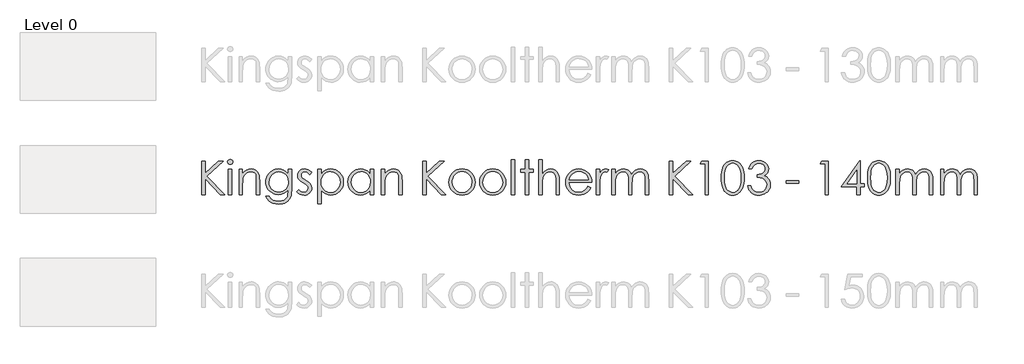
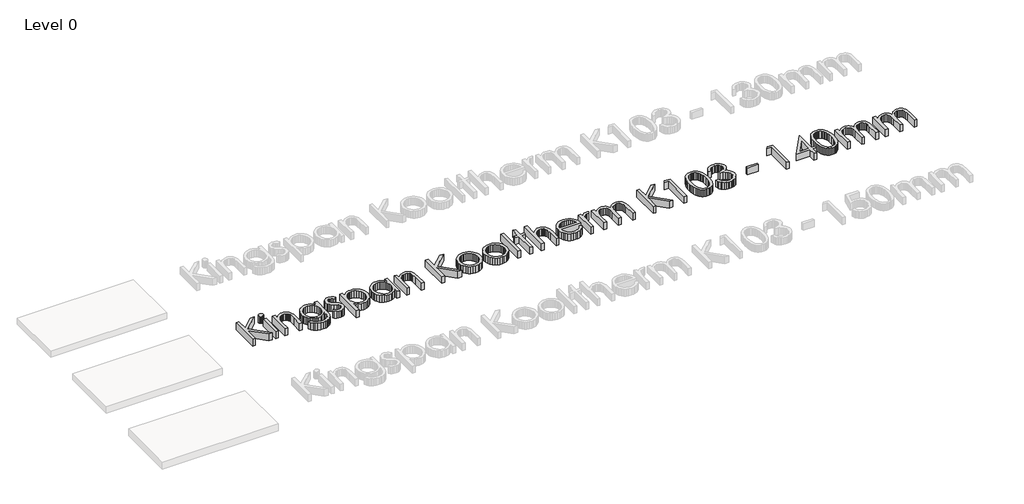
# One storey, part 2 of 13: 1 proxy.
"""IFC4 building model written with IfcOpenShell, lengths in millimetres."""

import ifcopenshell
import ifcopenshell.guid

model = None  # the IFC model being written
_history = None  # IfcOwnerHistory: only IFC2X3 demands one
_inside = {}  # id of a spatial element -> (the spatial element, [elements in it])
_under = {}  # id of a project, library or spatial element -> (it, [spatial elements below it])
_declared = {}  # id of a project -> (the project, [libraries it declares])
_typed = {}  # id of a type object -> (the type object, [elements of that type])
_made_of = {}  # id of a material, layer set ... -> (it, [elements and type objects made of it])


def new_model(schema):
    """Start an empty IFC model of exactly this schema.

    Asked for "IFC4X3", IfcOpenShell would pick the latest addendum, in which some entities
    have other attributes; the version numbers below select the first issue.
    IFC2X3 requires an IfcOwnerHistory on every rooted entity: one is made here for all.
    """
    global model, _history
    if schema == "IFC4X3":
        model = ifcopenshell.file(schema_version=(4, 3, 0, 0))
    else:
        model = ifcopenshell.file(schema=schema)
    _inside.clear()
    _under.clear()
    _declared.clear()
    _typed.clear()
    _made_of.clear()
    _history = None
    if model.schema == "IFC2X3":
        org = make("IfcOrganization", Name="unknown")
        user = make(
            "IfcPersonAndOrganization",
            ThePerson=make("IfcPerson", FamilyName="unknown"),
            TheOrganization=org,
        )
        app = make(
            "IfcApplication",
            ApplicationDeveloper=org,
            Version="unknown",
            ApplicationFullName="unknown",
            ApplicationIdentifier="unknown",
        )
        _history = make(
            "IfcOwnerHistory",
            OwningUser=user,
            OwningApplication=app,
            ChangeAction="ADDED",
            CreationDate=0,
        )
    return model


def make(cls, **values):
    """One entity of the class cls with the attributes given. An attribute that is None is left unset."""
    return model.create_entity(
        cls, **{name: value for name, value in values.items() if value is not None}
    )


def rooted(cls, **values):
    """An entity with a GlobalId (a new one), such as an element, a storey or a relation."""
    return make(cls, GlobalId=ifcopenshell.guid.new(), OwnerHistory=_history, **values)


def si_unit(unit_type, name, prefix=None):
    """IfcSIUnit, for example si_unit("LENGTHUNIT", "METRE", prefix="MILLI")."""
    return make("IfcSIUnit", UnitType=unit_type, Prefix=prefix, Name=name)


def assignment(units):
    """IfcUnitAssignment: the units of a project."""
    return None if units is None else make("IfcUnitAssignment", Units=units)


def point(xyz):
    """IfcCartesianPoint."""
    return None if xyz is None else make("IfcCartesianPoint", Coordinates=xyz)


def direction(xyz):
    """IfcDirection."""
    return None if xyz is None else make("IfcDirection", DirectionRatios=xyz)


def frame(location, z_axis=None, x_axis=None):
    """IfcAxis2Placement3D, a coordinate frame: its origin and axes. An axis left out is left unset."""
    return make(
        "IfcAxis2Placement3D",
        Location=point(location),
        Axis=direction(z_axis),
        RefDirection=direction(x_axis),
    )


def origin():
    """The frame at (0, 0, 0) with its axes left unset."""
    return frame((0.0, 0.0, 0.0))


def origin_with_axes():
    """The frame at (0, 0, 0) with the z axis (0, 0, 1) and the x axis (1, 0, 0) written out."""
    return frame((0.0, 0.0, 0.0), z_axis=(0.0, 0.0, 1.0), x_axis=(1.0, 0.0, 0.0))


def place(relative_to, where):
    """IfcLocalPlacement: puts the frame where relative to a parent placement (None: the world)."""
    return make(
        "IfcLocalPlacement", PlacementRelTo=relative_to, RelativePlacement=where
    )


def context(
    kind, dimensions, precision=None, world=None, true_north=None, identifier=None
):
    """IfcGeometricRepresentationContext, for example the 3D "Model" context."""
    return make(
        "IfcGeometricRepresentationContext",
        ContextIdentifier=identifier,
        ContextType=kind,
        CoordinateSpaceDimension=dimensions,
        Precision=precision,
        WorldCoordinateSystem=world,
        TrueNorth=true_north,
    )


def project(units=None, contexts=None):
    """IfcProject with its units and contexts."""
    return rooted(
        "IfcProject",
        Name="project",
        RepresentationContexts=contexts,
        UnitsInContext=assignment(units),
    )


def spatial(cls, under=None, at=None, **own):
    """A site, building, storey or space (cls), placed at a placement, below another one or the project."""
    s = rooted(cls, ObjectPlacement=at, **own)
    if under is not None:
        _under.setdefault(under.id(), (under, []))[1].append(s)
    return s


def polyline(points):
    """IfcPolyline through the points."""
    return make("IfcPolyline", Points=[point(p) for p in points])


def outline(outer, holes=None, kind="AREA"):
    """IfcArbitraryClosedProfileDef: a profile drawn as a closed curve; with holes, ...WithVoids."""
    if holes is None:
        return make("IfcArbitraryClosedProfileDef", ProfileType=kind, OuterCurve=outer)
    return make(
        "IfcArbitraryProfileDefWithVoids",
        ProfileType=kind,
        OuterCurve=outer,
        InnerCurves=holes,
    )


def extrude(swept, where, along, depth):
    """IfcExtrudedAreaSolid: the profile swept, set in the frame where, extruded along a direction by depth."""
    return make(
        "IfcExtrudedAreaSolid",
        SweptArea=swept,
        Position=where,
        ExtrudedDirection=direction(along),
        Depth=depth,
    )


def shape(context_of_items, identifier, shape_type, items):
    """IfcShapeRepresentation: the items that make up one representation, for example the "Body"."""
    return make(
        "IfcShapeRepresentation",
        ContextOfItems=context_of_items,
        RepresentationIdentifier=identifier,
        RepresentationType=shape_type,
        Items=items,
    )


def made_of(thing, what):
    """Note that an element or type object is made of a material, layer set ...; save() writes the relation."""
    if what is not None:
        _made_of.setdefault(what.id(), (what, []))[1].append(thing)
    return thing


def element(
    cls,
    number,
    at=None,
    inside=None,
    cuts=None,
    type_object=None,
    material=None,
    context=None,
    identifier="Body",
    shape_type=None,
    held_by="IfcProductDefinitionShape",
    body=None,
    shapes=None,
    **own,
):
    """One element of the class cls, such as IfcWall. Its Tag is "e" and its number.

    at: its placement. inside: the storey or other place that contains it. cuts: it is an
    opening in that element (IfcRelVoidsElement). A single representation is given by context,
    identifier, shape_type and body (its items); several are given by shapes. held_by: the class
    of the entity that holds the representations. save() writes the other relations.
    """
    e = rooted(cls, Tag="e%d" % number, ObjectPlacement=at, **own)
    if body is not None:
        shapes = [shape(context, identifier, shape_type, body)]
    if shapes is not None:
        e.Representation = make(held_by, Representations=shapes)
    if inside is not None:
        _inside.setdefault(inside.id(), (inside, []))[1].append(e)
    if cuts is not None:
        rooted(
            "IfcRelVoidsElement", RelatingBuildingElement=cuts, RelatedOpeningElement=e
        )
    if type_object is not None:
        _typed.setdefault(type_object.id(), (type_object, []))[1].append(e)
    return made_of(e, material)


def aggregate(whole, parts):
    """IfcRelAggregates: a whole, such as a stair, and the parts it consists of."""
    return rooted("IfcRelAggregates", RelatingObject=whole, RelatedObjects=parts)


def save(model, path):
    """Write the relations noted so far, then the file.

    IfcRelAggregates (storeys below a building ...), IfcRelContainedInSpatialStructure (elements
    in a storey), IfcRelDefinesByType, IfcRelAssociatesMaterial and IfcRelDeclares: one each for
    every whole, place, type object, material and project.
    """
    for whole, parts in _under.values():
        aggregate(whole, parts)
    for where, things in _inside.values():
        rooted(
            "IfcRelContainedInSpatialStructure",
            RelatedElements=things,
            RelatingStructure=where,
        )
    for kind, things in _typed.values():
        rooted("IfcRelDefinesByType", RelatedObjects=things, RelatingType=kind)
    for what, things in _made_of.values():
        rooted("IfcRelAssociatesMaterial", RelatedObjects=things, RelatingMaterial=what)
    for by, libraries in _declared.values():
        rooted("IfcRelDeclares", RelatingContext=by, RelatedDefinitions=libraries)
    model.write(path)


model = new_model("IFC4")

# Units and contexts
model_context = context("Model", 3, world=origin())
ifc_project = project(units=[si_unit("LENGTHUNIT", "METRE", prefix="MILLI")], contexts=[model_context])

# Site, building, storey
site = spatial("IfcSite", under=ifc_project)
building = spatial("IfcBuilding", under=site)
storey = spatial("IfcBuildingStorey", under=building, Name="Level 0", Elevation=0.0)

# Proxy
placement = place(None, origin())
element("IfcBuildingElementProxy", 1, Name="600mm KI_CenturyGothic", ObjectType="600mm KI_CenturyGothic", at=placement, inside=storey, context=model_context, shape_type="SweptSolid", body=[
    extrude(outline(polyline([(-3852.2663848, -16099.1034017), (-3792.944575, -16099.1034017), (-3792.944575, -16318.316027), (-3555.1938841, -16099.1034017), (-3471.6181051, -16099.1034017), (-3760.9664119, -16366.0515459), (-3441.9572002, -16692.3214999), (-3520.8984627, -16692.3214999), (-3792.944575, -16414.0960325), (-3792.944575, -16692.3214999), (-3852.2663848, -16692.3214999), (-3852.2663848, -16099.1034017)])), origin_with_axes(), (0.0, 0.0, 1.0), 150.0),
    extrude(outline(polyline([(-3348.1854852, -16069.4424967), (-3329.145347, -16072.7252792), (-3313.1176445, -16082.5736265), (-3302.226531, -16097.0178693), (-3298.5961598, -16114.088338), (-3302.226531, -16130.9270809), (-3313.1176445, -16145.2940817), (-3329.145347, -16155.142429), (-3348.1854852, -16158.4252115), (-3366.9938975, -16155.142429), (-3382.9443581, -16145.2940817), (-3393.8354717, -16130.9270809), (-3397.4658428, -16114.088338), (-3393.8354717, -16097.0178693), (-3382.9443581, -16082.5736265), (-3366.9938975, -16072.7252792), (-3348.1854852, -16069.4424967)])), origin_with_axes(), (0.0, 0.0, 1.0), 150.0),
    extrude(outline(polyline([(-3377.6919062, -16247.4079262), (-3318.3700964, -16247.4079262), (-3318.3700964, -16692.3214999), (-3377.6919062, -16692.3214999), (-3377.6919062, -16247.4079262)])), origin_with_axes(), (0.0, 0.0, 1.0), 150.0),
    extrude(outline(polyline([(-3189.8395084, -16247.4079262), (-3130.5176986, -16247.4079262), (-3130.5176986, -16326.5036726), (-3096.9946967, -16286.9944204), (-3060.0730495, -16259.303185), (-3019.7141359, -16242.9665147), (-2975.879335, -16237.5209579), (-2953.4357238, -16239.0995901), (-2932.2955704, -16243.8354865), (-2912.4588747, -16251.7286472), (-2893.9256368, -16262.7790723), (-2877.212412, -16276.5039994), (-2862.835756, -16292.4206667), (-2841.0921499, -16330.8292213), (-2833.6238199, -16355.2087086), (-2828.2892984, -16385.5551357), (-2824.0216812, -16464.1488095), (-2824.0216812, -16692.3214999), (-2883.343491, -16692.3214999), (-2883.343491, -16479.1337458), (-2883.343491, -16376.092998), (-2884.7290183, -16355.2956057), (-2889.8125035, -16337.2403023), (-2898.2849788, -16321.9270877), (-2910.1464442, -16309.355962), (-2924.7403432, -16299.5558909), (-2941.4101193, -16292.5558401), (-2980.977303, -16286.9557994), (-3005.3471351, -16289.1137461), (-3028.4038541, -16295.5875862), (-3050.1474602, -16306.3773197), (-3070.5779533, -16321.4829466), (-3088.6622225, -16339.7651482), (-3103.3671568, -16360.084606), (-3114.6927562, -16382.44132), (-3122.6390208, -16406.8352901), (-3128.5480292, -16453.9142525), (-3130.5176986, -16528.4141035), (-3130.5176986, -16692.3214999), (-3189.8395084, -16692.3214999), (-3189.8395084, -16247.4079262)])), origin_with_axes(), (0.0, 0.0, 1.0), 150.0),
    extrude(outline(polyline([(-2319.7862977, -16247.4079262), (-2260.4644879, -16247.4079262), (-2260.4644879, -16598.395301), (-2264.5196897, -16678.6496765), (-2269.588692, -16709.4499001), (-2276.6852953, -16734.0321474), (-2289.9371156, -16762.6454585), (-2307.2924139, -16787.7732271), (-2328.7511904, -16809.4154531), (-2354.3134448, -16827.5721366), (-2383.3226209, -16841.9343098), (-2415.122162, -16852.1930049), (-2449.7120682, -16858.348222), (-2487.0923395, -16860.3999611), (-2541.0458345, -16856.3833802), (-2589.206184, -16844.3336376), (-2630.260275, -16825.5059147), (-2662.8949946, -16801.1553932), (-2690.2000204, -16767.8061856), (-2715.2650299, -16721.9824048), (-2655.94322, -16721.9824048), (-2642.4355358, -16743.151524), (-2627.0933555, -16761.3951046), (-2609.9166791, -16776.7131468), (-2590.9055067, -16789.1056506), (-2569.7894914, -16798.6691682), (-2546.2982864, -16805.5002523), (-2492.1903075, -16810.9651195), (-2438.5071593, -16805.6354257), (-2415.083541, -16798.9733084), (-2393.93856, -16789.6463441), (-2359.6624492, -16765.6047903), (-2336.8567664, -16736.1176798), (-2329.3884364, -16717.4782342), (-2324.0539149, -16693.7697863), (-2319.7862977, -16631.1458835), (-2319.7862977, -16608.4367532), (-2354.757586, -16644.2190818), (-2396.6420279, -16670.6165148), (-2443.392712, -16686.8952536), (-2492.9627269, -16692.3214999), (-2522.4063889, -16690.4242447), (-2550.9521133, -16684.7324793), (-2578.5999001, -16675.2462036), (-2605.3497494, -16661.9654175), (-2630.1540674, -16645.4742634), (-2651.9652601, -16626.3568832), (-2670.7833277, -16604.6132772), (-2686.6082702, -16580.2434451), (-2699.1456025, -16553.9280817), (-2708.1008399, -16526.3478816), (-2713.4739824, -16497.5028447), (-2715.2650299, -16467.392971), (-2713.3967404, -16437.1044753), (-2707.7918722, -16407.8780563), (-2698.4504251, -16379.713714), (-2685.3723991, -16352.6114483), (-2668.9971079, -16327.4257483), (-2649.7638648, -16305.0111029), (-2627.67267, -16285.367512), (-2602.7235235, -16268.4949758), (-2575.9833294, -16254.943843), (-2548.5189922, -16245.2644624), (-2520.3305117, -16239.456834), (-2491.4178881, -16237.5209579), (-2444.5320306, -16242.4644421), (-2400.8903346, -16257.2948945), (-2359.6045177, -16283.8661218), (-2319.7862977, -16324.0319306), (-2319.7862977, -16247.4079262)]), holes=[polyline([(-2484.1571458, -16286.9557994), (-2529.0154023, -16292.9806707), (-2570.5908765, -16311.0552847), (-2606.2187212, -16339.7699758), (-2633.2340897, -16377.7150788), (-2650.2659375, -16421.9940208), (-2655.94322, -16469.7102292), (-2653.0080263, -16505.6229036), (-2644.2024452, -16538.2817613), (-2629.5264766, -16567.6868023), (-2608.9801206, -16593.8380266), (-2583.7606272, -16615.296803), (-2555.0652466, -16630.6245004), (-2522.8939786, -16639.8211189), (-2487.2468234, -16642.8866584), (-2451.3244937, -16639.845257), (-2419.1001219, -16630.7210528), (-2390.573708, -16615.5140459), (-2365.7452519, -16594.2242363), (-2345.6382095, -16567.9812872), (-2331.2760363, -16537.9148621), (-2322.6587323, -16504.024961), (-2319.7862977, -16466.3115838), (-2325.0773706, -16417.6105407), (-2340.9505892, -16374.3936754), (-2366.4983608, -16338.1672056), (-2400.8130926, -16310.4373492), (-2440.9982119, -16292.8261869), (-2484.1571458, -16286.9557994)])]), origin_with_axes(), (0.0, 0.0, 1.0), 150.0),
    extrude(outline(polyline([(-1904.5336289, -16298.6965743), (-1940.9918246, -16336.390641), (-1962.9575012, -16314.7628978), (-1984.6721416, -16299.3145098), (-2006.1357456, -16290.045477), (-2027.3483133, -16286.9557994), (-2052.181597, -16291.6289368), (-2073.2300256, -16305.6483489), (-2087.5970264, -16325.8857371), (-2092.3860267, -16349.212803), (-2088.4466878, -16370.7633042), (-2076.628671, -16391.2324183), (-2052.0657341, -16413.400855), (-2010.2006027, -16439.122421), (-1958.3326401, -16471.9888664), (-1939.8428507, -16487.8138088), (-1926.315856, -16503.2332311), (-1909.9791857, -16535.9065716), (-1904.5336289, -16572.4420092), (-1906.9474396, -16598.5884059), (-1914.1888714, -16622.6492701), (-1926.2579245, -16644.624602), (-1943.1545989, -16664.5144015), (-1963.6719892, -16681.0055557), (-1986.6031901, -16692.7849515), (-2011.9482016, -16699.852589), (-2039.7070237, -16702.2084682), (-2077.4397114, -16698.3270607), (-2113.3958344, -16686.6828383), (-2145.4512394, -16668.2027042), (-2171.4817731, -16643.8135617), (-2135.7959969, -16603.3387852), (-2114.0041146, -16624.9665283), (-2091.5749863, -16640.4149163), (-2068.5086121, -16649.6839491), (-2044.8049918, -16652.7736267), (-2013.637869, -16647.1349651), (-1987.4914724, -16630.2189802), (-1969.7644472, -16605.6560434), (-1963.8554388, -16577.0765256), (-1967.7561567, -16553.2860081), (-1979.4583106, -16532.2762005), (-2005.0253927, -16510.5712154), (-2050.2119275, -16483.7682622), (-2099.762632, -16453.1032121), (-2117.441381, -16437.9444814), (-2130.3890611, -16422.9016136), (-2146.3781427, -16390.7689666), (-2151.7078365, -16354.310771), (-2149.5305794, -16330.2643896), (-2142.9988078, -16308.3325063), (-2132.1125219, -16288.5151211), (-2116.8717217, -16270.812234), (-2098.309518, -16256.2473007), (-2077.4590218, -16245.8437769), (-2054.3202332, -16239.6016627), (-2028.8931521, -16237.5209579), (-1997.9481, -16241.3444339), (-1966.9064954, -16252.814862), (-1935.7683384, -16271.9322421), (-1904.5336289, -16298.6965743)])), origin_with_axes(), (0.0, 0.0, 1.0), 150.0),
    extrude(outline(polyline([(-1795.7769776, -16247.4079262), (-1736.4551678, -16247.4079262), (-1736.4551678, -16328.5119631), (-1700.9238754, -16288.2689124), (-1660.4490989, -16259.9211205), (-1614.9922173, -16243.1209986), (-1564.5146096, -16237.5209579), (-1520.0618732, -16241.7596094), (-1478.9305402, -16254.4755637), (-1441.1206107, -16275.668821), (-1406.6320845, -16305.3393811), (-1377.9077381, -16340.9768811), (-1357.3903478, -16380.070958), (-1345.0799137, -16422.6216116), (-1340.9764356, -16468.628842), (-1345.0412927, -16515.5291824), (-1357.235864, -16558.7508754), (-1377.5601494, -16598.293921), (-1406.014149, -16634.1583192), (-1440.2130179, -16663.9302594), (-1477.7719111, -16685.1959309), (-1518.6908288, -16697.9553339), (-1562.9697708, -16702.2084682), (-1612.6170277, -16696.743601), (-1658.0545988, -16680.3489992), (-1699.3211052, -16653.1019049), (-1736.4551678, -16615.07956), (-1736.4551678, -16850.5129928), (-1795.7769776, -16850.5129928), (-1795.7769776, -16247.4079262)]), holes=[polyline([(-1568.5311905, -16286.9557994), (-1602.5852307, -16290.2530647), (-1633.8392507, -16300.1448607), (-1662.2932503, -16316.6311872), (-1687.9472295, -16339.7120444), (-1709.1694525, -16367.6977647), (-1724.3281832, -16398.8986808), (-1733.4234216, -16433.3147926), (-1736.4551678, -16470.9461002), (-1731.048232, -16519.8016272), (-1714.8274246, -16563.4819442), (-1688.5265441, -16600.3263495), (-1652.8793888, -16628.6741414), (-1611.4390881, -16646.7487554), (-1567.7587711, -16652.7736267), (-1525.0632888, -16646.7101344), (-1485.0326535, -16628.5196576), (-1450.2544701, -16599.4187567), (-1423.3163435, -16560.6239924), (-1406.05277, -16515.9588407), (-1400.2982454, -16469.2467775), (-1405.9948385, -16422.3029886), (-1423.0846177, -16377.8695627), (-1449.8103289, -16339.5189395), (-1484.414718, -16310.8235589), (-1524.7157001, -16292.9227393), (-1568.5311905, -16286.9557994)])]), origin_with_axes(), (0.0, 0.0, 1.0), 150.0),
    extrude(outline(polyline([(-807.0801472, -16247.4079262), (-807.0801472, -16692.3214999), (-866.401957, -16692.3214999), (-866.401957, -16616.4699149), (-903.4780882, -16654.3184655), (-944.8797679, -16681.0441767), (-990.4525125, -16696.9173953), (-1040.0418379, -16702.2084682), (-1084.3159523, -16697.9553339), (-1125.2203871, -16685.1959309), (-1162.7551422, -16663.9302594), (-1196.9202178, -16634.1583192), (-1225.340424, -16598.293921), (-1245.6405713, -16558.7508754), (-1257.8206597, -16515.5291824), (-1261.8806892, -16468.628842), (-1257.7820388, -16422.6216116), (-1245.4860875, -16380.070958), (-1224.9928353, -16340.9768811), (-1196.3022822, -16305.3393811), (-1161.8475494, -16275.668821), (-1124.061758, -16254.4755637), (-1082.9449079, -16241.7596094), (-1038.4969991, -16237.5209579), (-987.7490446, -16243.1209986), (-942.0990581, -16259.9211205), (-921.2051134, -16272.6081091), (-901.6242816, -16288.2689124), (-866.401957, -16328.5119631), (-866.401957, -16247.4079262), (-807.0801472, -16247.4079262)]), holes=[polyline([(-1034.3259343, -16286.9557994), (-1078.1414247, -16292.9227393), (-1118.4424068, -16310.8235589), (-1153.0467959, -16339.5189395), (-1179.7725071, -16377.8695627), (-1196.8622863, -16422.3029886), (-1202.5588794, -16469.2467775), (-1196.8043548, -16515.9588407), (-1179.5407813, -16560.6239924), (-1152.6026548, -16599.4187567), (-1117.8244713, -16628.5196576), (-1077.6779731, -16646.7101344), (-1034.6349021, -16652.7736267), (-991.0125165, -16646.7487554), (-949.7460102, -16628.6741414), (-914.2726493, -16600.3263495), (-888.0297002, -16563.4819442), (-871.8088928, -16519.8016272), (-866.401957, -16470.9461002), (-869.4337032, -16433.3147926), (-878.5289416, -16398.8986808), (-893.6876723, -16367.6977647), (-914.9098953, -16339.7120444), (-940.5638746, -16316.6311872), (-969.0178742, -16300.1448607), (-1000.2718941, -16290.2530647), (-1034.3259343, -16286.9557994)])]), origin_with_axes(), (0.0, 0.0, 1.0), 150.0),
    extrude(outline(polyline([(-668.662591, -16247.4079262), (-609.3407811, -16247.4079262), (-609.3407811, -16326.5036726), (-575.8177792, -16286.9944204), (-538.896132, -16259.303185), (-498.5372184, -16242.9665147), (-454.7024175, -16237.5209579), (-432.2588064, -16239.0995901), (-411.1186529, -16243.8354865), (-391.2819572, -16251.7286472), (-372.7487193, -16262.7790723), (-356.0354946, -16276.5039994), (-341.6588385, -16292.4206667), (-319.9152324, -16330.8292213), (-312.4469024, -16355.2087086), (-307.1123809, -16385.5551357), (-302.8447637, -16464.1488095), (-302.8447637, -16692.3214999), (-362.1665735, -16692.3214999), (-362.1665735, -16479.1337458), (-362.1665735, -16376.092998), (-363.5521008, -16355.2956057), (-368.635586, -16337.2403023), (-377.1080613, -16321.9270877), (-388.9695267, -16309.355962), (-403.5634257, -16299.5558909), (-420.2332018, -16292.5558401), (-459.8003855, -16286.9557994), (-484.1702176, -16289.1137461), (-507.2269366, -16295.5875862), (-528.9705427, -16306.3773197), (-549.4010358, -16321.4829466), (-567.485305, -16339.7651482), (-582.1902393, -16360.084606), (-593.5158387, -16382.44132), (-601.4621033, -16406.8352901), (-607.3711117, -16453.9142525), (-609.3407811, -16528.4141035), (-609.3407811, -16692.3214999), (-668.662591, -16692.3214999), (-668.662591, -16247.4079262)])), origin_with_axes(), (0.0, 0.0, 1.0), 150.0),
    extrude(outline(polyline([(62.9730635, -16099.1034017), (122.2948734, -16099.1034017), (122.2948734, -16318.316027), (360.0455643, -16099.1034017), (443.6213432, -16099.1034017), (154.2730365, -16366.0515459), (473.2822481, -16692.3214999), (394.3409856, -16692.3214999), (122.2948734, -16414.0960325), (122.2948734, -16692.3214999), (62.9730635, -16692.3214999), (62.9730635, -16099.1034017)])), origin_with_axes(), (0.0, 0.0, 1.0), 150.0),
    extrude(outline(polyline([(760.1588128, -16237.5209579), (809.4681362, -16242.1458191), (854.3553585, -16256.0204025), (894.8204798, -16279.1447083), (930.8635, -16311.5187363), (957.7630055, -16346.7507161), (976.9769381, -16385.091684), (988.5052976, -16426.54164), (992.3480841, -16471.1005841), (988.283227, -16515.9153921), (976.0886558, -16557.8239721), (955.7643703, -16596.8263241), (927.3103707, -16632.9224481), (892.4742558, -16663.2350819), (853.0036246, -16684.8869632), (808.8984769, -16697.8780919), (760.1588128, -16702.2084682), (711.2839754, -16697.8780919), (667.0822753, -16684.8869632), (627.5537126, -16663.2350819), (592.6982872, -16632.9224481), (564.2442876, -16596.8263241), (543.9200022, -16557.8239721), (531.7254309, -16515.9153921), (527.6605738, -16471.1005841), (531.5033603, -16426.7347449), (543.0317198, -16385.4006518), (562.2456524, -16347.0983049), (589.145158, -16311.8277041), (625.2074886, -16279.3185026), (665.7305413, -16256.0976445), (710.7143161, -16242.1651295), (760.1588128, -16237.5209579)]), holes=[polyline([(760.004329, -16286.9557994), (725.7282181, -16290.3303067), (693.9624704, -16300.4538284), (664.7070856, -16317.3263647), (637.962064, -16340.9479154), (615.6584538, -16369.3584664), (599.7273037, -16400.5980035), (590.1686137, -16434.6665266), (586.9823836, -16471.5640357), (592.7948396, -16519.2995546), (610.2322075, -16563.6364281), (637.5758543, -16601.4270471), (673.1071466, -16629.5238028), (714.6439998, -16646.9611707), (760.004329, -16652.7736267), (805.3646581, -16646.9611707), (846.9015113, -16629.5238028), (882.4328037, -16601.4270471), (909.7764504, -16563.6364281), (927.2138183, -16519.2995546), (933.0262743, -16471.5640357), (929.8255614, -16434.6665266), (920.2234227, -16400.5980035), (904.2198583, -16369.3584664), (881.8148681, -16340.9479154), (854.9974321, -16317.3263647), (825.7565303, -16300.4538284), (794.0921625, -16290.3303067), (760.004329, -16286.9557994)])]), origin_with_axes(), (0.0, 0.0, 1.0), 150.0),
    extrude(outline(polyline([(1303.9420695, -16237.5209579), (1353.2513929, -16242.1458191), (1398.1386152, -16256.0204025), (1438.6037365, -16279.1447083), (1474.6467567, -16311.5187363), (1501.5462622, -16346.7507161), (1520.7601948, -16385.091684), (1532.2885543, -16426.54164), (1536.1313408, -16471.1005841), (1532.0664837, -16515.9153921), (1519.8719125, -16557.8239721), (1499.547627, -16596.8263241), (1471.0936274, -16632.9224481), (1436.2575126, -16663.2350819), (1396.7868813, -16684.8869632), (1352.6817336, -16697.8780919), (1303.9420695, -16702.2084682), (1255.0672321, -16697.8780919), (1210.865532, -16684.8869632), (1171.3369693, -16663.2350819), (1136.4815439, -16632.9224481), (1108.0275443, -16596.8263241), (1087.7032589, -16557.8239721), (1075.5086876, -16515.9153921), (1071.4438305, -16471.1005841), (1075.286617, -16426.7347449), (1086.8149766, -16385.4006518), (1106.0289091, -16347.0983049), (1132.9284147, -16311.8277041), (1168.9907453, -16279.3185026), (1209.5137981, -16256.0976445), (1254.4975728, -16242.1651295), (1303.9420695, -16237.5209579)]), holes=[polyline([(1303.7875857, -16286.9557994), (1269.5114748, -16290.3303067), (1237.7457271, -16300.4538284), (1208.4903423, -16317.3263647), (1181.7453207, -16340.9479154), (1159.4417105, -16369.3584664), (1143.5105604, -16400.5980035), (1133.9518704, -16434.6665266), (1130.7656404, -16471.5640357), (1136.5780963, -16519.2995546), (1154.0154643, -16563.6364281), (1181.359111, -16601.4270471), (1216.8904033, -16629.5238028), (1258.4272565, -16646.9611707), (1303.7875857, -16652.7736267), (1349.1479149, -16646.9611707), (1390.684768, -16629.5238028), (1426.2160604, -16601.4270471), (1453.5597071, -16563.6364281), (1470.997075, -16519.2995546), (1476.809531, -16471.5640357), (1473.6088181, -16434.6665266), (1464.0066795, -16400.5980035), (1448.003115, -16369.3584664), (1425.5981249, -16340.9479154), (1398.7806889, -16317.3263647), (1369.539787, -16300.4538284), (1337.8754193, -16290.3303067), (1303.7875857, -16286.9557994)])]), origin_with_axes(), (0.0, 0.0, 1.0), 150.0),
    extrude(outline(polyline([(1635.0010238, -16079.3294651), (1694.3228337, -16079.3294651), (1694.3228337, -16692.3214999), (1635.0010238, -16692.3214999), (1635.0010238, -16079.3294651)])), origin_with_axes(), (0.0, 0.0, 1.0), 150.0),
    extrude(outline(polyline([(1882.1752314, -16079.3294651), (1941.4970413, -16079.3294651), (1941.4970413, -16247.4079262), (2020.5927877, -16247.4079262), (2020.5927877, -16296.8427677), (1941.4970413, -16296.8427677), (1941.4970413, -16692.3214999), (1882.1752314, -16692.3214999), (1882.1752314, -16296.8427677), (1803.079485, -16296.8427677), (1803.079485, -16247.4079262), (1882.1752314, -16247.4079262), (1882.1752314, -16079.3294651)])), origin_with_axes(), (0.0, 0.0, 1.0), 150.0),
    extrude(outline(polyline([(2119.4624707, -16079.3294651), (2178.7842806, -16079.3294651), (2178.7842806, -16328.0485114), (2212.5583188, -16288.3461544), (2249.6151394, -16260.0756044), (2289.9161216, -16243.1596195), (2333.4226442, -16237.5209579), (2355.8662553, -16239.0995901), (2377.0064088, -16243.8354865), (2396.8431044, -16251.7286472), (2415.3763424, -16262.7790723), (2432.0895671, -16276.4895166), (2446.4662232, -16292.3627352), (2468.2098293, -16330.5974955), (2475.6781593, -16354.9045684), (2481.0126808, -16385.2654784), (2485.280298, -16464.1488095), (2485.280298, -16692.3214999), (2425.9584882, -16692.3214999), (2425.9584882, -16479.1337458), (2424.5681332, -16414.752589), (2420.3970685, -16376.092998), (2406.879729, -16337.2403023), (2397.1665551, -16321.9270877), (2385.4837117, -16309.355962), (2371.840854, -16299.5558909), (2356.2476374, -16292.5558401), (2319.2101273, -16286.9557994), (2296.3416854, -16289.1137461), (2274.6994594, -16295.5875862), (2254.2834492, -16306.3773197), (2235.0936547, -16321.4829466), (2218.1052556, -16339.7651482), (2204.2934312, -16360.084606), (2193.6581816, -16382.44132), (2186.1995068, -16406.8352901), (2180.6380871, -16453.6825267), (2178.7842806, -16528.4141035), (2178.7842806, -16692.3214999), (2119.4624707, -16692.3214999), (2119.4624707, -16079.3294651)])), origin_with_axes(), (0.0, 0.0, 1.0), 150.0),
    extrude(outline(polyline([(2991.0605203, -16544.0169753), (3038.950523, -16569.1978477), (3013.3255094, -16611.0822896), (2984.0315038, -16644.0452875), (2950.952643, -16669.1296074), (2913.9730643, -16687.3780157), (2872.4941426, -16698.5008551), (2825.9172528, -16702.2084682), (2774.4258447, -16697.7767119), (2728.8627554, -16684.481443), (2689.227985, -16662.3226615), (2655.5215335, -16631.3003674), (2628.6220279, -16594.6973431), (2609.4080954, -16555.7963712), (2597.8797358, -16514.5974515), (2594.0369493, -16471.1005841), (2597.3197318, -16430.2202874), (2607.1680791, -16391.618628), (2623.5819913, -16355.2956057), (2646.5614684, -16321.2512207), (2682.7493173, -16284.6192308), (2724.5758277, -16258.4535236), (2772.0409998, -16242.7540993), (2825.1448334, -16237.5209579), (2879.7935059, -16242.8892727), (2928.6490329, -16258.9942172), (2971.7114143, -16285.8357913), (3008.9806503, -16323.4139951), (3030.4539096, -16355.585263), (3045.9022976, -16391.541386), (3055.3258143, -16431.2823641), (3058.7244596, -16474.8081972), (2653.3587591, -16474.8081972), (2657.095338, -16512.0629503), (2666.6057518, -16545.8128504), (2681.8900007, -16576.0578975), (2702.9480845, -16602.7980916), (2728.3124066, -16624.6623882), (2756.5153699, -16640.2797429), (2787.5569744, -16649.6501557), (2821.4372203, -16652.7736267), (2854.9602222, -16649.761191), (2887.5563208, -16640.7238841), (2917.2944677, -16626.6851615), (2942.2436143, -16608.668479), (2965.725164, -16582.5027719), (2991.0605203, -16544.0169753)]), holes=[polyline([(2999.4026498, -16425.3733557), (2984.9777175, -16382.8516678), (2965.1844704, -16349.8307385), (2939.0766947, -16324.3022774), (2905.7081767, -16304.257994), (2867.7630738, -16291.2813481), (2827.9255433, -16286.9557994), (2795.503239, -16289.6689226), (2765.4368139, -16297.808292), (2737.726268, -16311.3739077), (2712.3716012, -16330.3657696), (2695.8321708, -16348.179692), (2681.4362043, -16369.9522638), (2669.1837016, -16395.683485), (2659.0746627, -16425.3733557), (2999.4026498, -16425.3733557)])]), origin_with_axes(), (0.0, 0.0, 1.0), 150.0),
    extrude(outline(polyline([(3137.820206, -16247.4079262), (3197.1420159, -16247.4079262), (3197.1420159, -16311.8277041), (3222.6897875, -16278.7874643), (3249.589293, -16255.6728138), (3277.7632906, -16242.0589219), (3307.1345382, -16237.5209579), (3330.4616041, -16241.305813), (3355.3335087, -16252.6603781), (3325.8270877, -16294.6799934), (3297.2475699, -16286.9557994), (3270.8308265, -16292.9034288), (3245.3409863, -16310.7463169), (3223.2884125, -16341.1023993), (3207.183468, -16384.5896114), (3199.6523789, -16442.7141712), (3197.1420159, -16540.1548783), (3197.1420159, -16692.3214999), (3137.820206, -16692.3214999), (3137.820206, -16247.4079262)])), origin_with_axes(), (0.0, 0.0, 1.0), 150.0),
    extrude(outline(polyline([(3414.6553185, -16247.4079262), (3473.9771284, -16247.4079262), (3473.9771284, -16323.5684789), (3503.5607913, -16287.0716623), (3533.9168737, -16261.9294109), (3577.3268439, -16243.6230712), (3622.8995884, -16237.5209579), (3653.7384329, -16240.668567), (3682.9165757, -16250.1113941), (3708.6767627, -16264.7873627), (3729.2617397, -16283.634396), (3746.0425511, -16309.0663047), (3760.3902414, -16343.4968994), (3775.16759, -16319.0981017), (3791.6925376, -16297.808292), (3809.965084, -16279.6274704), (3829.9852293, -16264.5556369), (3851.2798666, -16252.7279648), (3873.375889, -16244.2796277), (3896.2732965, -16239.2106253), (3919.9720892, -16237.5209579), (3962.3006723, -16243.3334139), (3981.4952943, -16250.5989839), (3999.3768034, -16260.7707818), (4015.4914031, -16273.53984), (4029.385297, -16288.5971907), (4050.5109676, -16325.5767694), (4057.8103309, -16348.9521114), (4063.0241619, -16377.5219739), (4067.1952266, -16450.2452603), (4067.1952266, -16692.3214999), (4007.8734168, -16692.3214999), (4007.8734168, -16446.6921311), (4005.4209852, -16385.5744462), (3998.0636904, -16347.1272706), (3984.7587663, -16322.6608861), (3964.4634466, -16303.4855746), (3938.3942919, -16291.0882432), (3907.7678627, -16286.9557994), (3888.1194442, -16288.5054659), (3869.3399976, -16293.1544651), (3834.3880198, -16311.7504621), (3805.6540182, -16340.6968791), (3785.8800816, -16377.9468046), (3779.1889985, -16402.1042213), (3774.4096535, -16433.1747916), (3770.5861775, -16516.0553931), (3770.5861775, -16692.3214999), (3711.2643677, -16692.3214999), (3711.2643677, -16461.9860352), (3708.850557, -16393.530366), (3701.6091252, -16351.2983353), (3688.3621325, -16325.0553863), (3667.9316394, -16304.5669617), (3641.6114484, -16291.35859), (3610.6953619, -16286.9557994), (3573.7544042, -16292.9999812), (3539.2465676, -16311.1325266), (3510.2808401, -16339.499629), (3489.9662099, -16376.2474819), (3477.9743988, -16428.0768236), (3473.9771284, -16501.6883923), (3473.9771284, -16692.3214999), (3414.6553185, -16692.3214999), (3414.6553185, -16247.4079262)])), origin_with_axes(), (0.0, 0.0, 1.0), 150.0),
    extrude(outline(polyline([(4433.0130538, -16099.1034017), (4492.3348637, -16099.1034017), (4492.3348637, -16318.316027), (4730.0855546, -16099.1034017), (4813.6613335, -16099.1034017), (4524.3130268, -16366.0515459), (4843.3222385, -16692.3214999), (4764.3809759, -16692.3214999), (4492.3348637, -16414.0960325), (4492.3348637, -16692.3214999), (4433.0130538, -16692.3214999), (4433.0130538, -16099.1034017)])), origin_with_axes(), (0.0, 0.0, 1.0), 150.0),
    extrude(outline(polyline([(5010.6282802, -16099.1034017), (5125.1008351, -16099.1034017), (5125.1008351, -16692.3214999), (5065.7790253, -16692.3214999), (5065.7790253, -16148.5382432), (4976.7963106, -16148.5382432), (5010.6282802, -16099.1034017)])), origin_with_axes(), (0.0, 0.0, 1.0), 150.0),
    extrude(outline(polyline([(5352.5011061, -16395.8669347), (5354.0797383, -16341.4355052), (5358.8156347, -16293.5406748), (5366.7087954, -16252.1824436), (5377.7592204, -16217.3608116), (5391.6869077, -16187.7192172), (5408.2118552, -16161.9010988), (5427.334063, -16139.9064564), (5449.053531, -16121.73529), (5472.747496, -16107.5082902), (5497.793195, -16097.3461475), (5524.190628, -16091.2488619), (5551.9397949, -16089.2164334), (5580.1427582, -16091.2633448), (5606.974677, -16097.404079), (5632.4355515, -16107.638636), (5656.5253815, -16121.9670159), (5678.7083011, -16140.3843909), (5698.4484443, -16162.8859335), (5715.7458112, -16189.4716437), (5730.6004018, -16220.1415214), (5742.5294539, -16255.6583309), (5751.0502054, -16296.7848363), (5756.1626563, -16343.5210375), (5757.8668066, -16395.8669347), (5756.1867944, -16448.0535203), (5751.1467578, -16494.6207548), (5742.7466968, -16535.5686382), (5730.9866115, -16570.8971704), (5716.2768496, -16601.4222195), (5699.0277589, -16627.9596535), (5679.2393394, -16650.5094723), (5656.9115912, -16669.071676), (5632.6527944, -16683.5690226), (5607.0712295, -16693.9242701), (5580.1668963, -16700.1374187), (5551.9397949, -16702.2084682), (5524.2147661, -16700.2001778), (5497.8897474, -16694.1753064), (5472.964739, -16684.1338543), (5449.4397407, -16670.0758212), (5427.8651013, -16652.0398282), (5408.7911698, -16630.0644964), (5392.2179461, -16604.1498255), (5378.1454301, -16574.2958158), (5366.9260384, -16539.2762513), (5358.9121871, -16497.8649163), (5354.1038764, -16450.0618107), (5352.5011061, -16395.8669347)]), holes=[polyline([(5411.8229159, -16395.7124508), (5416.206396, -16484.038609), (5421.6857461, -16519.0195525), (5429.3568363, -16547.8790723), (5439.1713903, -16572.1185586), (5451.0811319, -16593.2394015), (5465.0860611, -16611.2416011), (5481.1861779, -16626.1251574), (5516.4857445, -16646.1115094), (5534.8886366, -16651.1080973), (5553.7936014, -16652.7736267), (5572.7854634, -16651.1418907), (5591.1400794, -16646.2466828), (5625.9375733, -16626.665851), (5641.694929, -16611.9898824), (5655.4439943, -16594.0697524), (5667.1847692, -16572.9054608), (5676.9172536, -16548.4970078), (5686.3793912, -16515.1381451), (5693.138061, -16478.5544313), (5698.5449967, -16395.7124508), (5693.7173755, -16314.1063413), (5687.682849, -16279.4150551), (5679.2345118, -16248.7982811), (5668.652366, -16222.135329), (5656.2164137, -16199.3055082), (5641.9266548, -16180.3088186), (5625.7830894, -16165.1452603), (5590.7152487, -16145.2747712), (5572.4861509, -16140.307149), (5553.7936014, -16138.6512749), (5534.7776014, -16140.307149), (5516.3505711, -16145.2747712), (5481.2634199, -16165.1452603), (5465.3177869, -16179.9564022), (5451.3900996, -16197.8958428), (5439.480358, -16218.9635819), (5429.5885621, -16243.1596195), (5421.8160919, -16272.0143117), (5416.2643275, -16307.0580143), (5411.8229159, -16395.7124508)])]), origin_with_axes(), (0.0, 0.0, 1.0), 150.0),
    extrude(outline(polyline([(5896.2843628, -16237.5209579), (5836.962553, -16237.5209579), (5847.4867673, -16203.8917483), (5861.9116996, -16174.3756721), (5880.2373498, -16148.9727291), (5902.463718, -16127.6829194), (5927.7314876, -16110.8538318), (5955.181342, -16098.8330549), (5984.8132812, -16091.6205887), (6016.6273051, -16089.2164334), (6062.9145376, -16094.3723328), (6105.9962296, -16109.8400313), (6142.7827034, -16134.0553795), (6170.1842816, -16165.454228), (6187.2161294, -16201.2365567), (6192.8934119, -16238.6023451), (6188.2106193, -16274.037085), (6174.1622415, -16305.5711069), (6150.7482785, -16333.2044109), (6117.9687303, -16356.936997), (6155.3538292, -16378.1012885), (6185.3237018, -16407.2987418), (6201.6120959, -16431.398227), (6213.2466631, -16456.8880672), (6220.2274034, -16483.7682622), (6222.5543169, -16512.0388122), (6220.8549942, -16536.7031292), (6215.7570261, -16560.7977868), (6207.2604128, -16584.3227851), (6195.365154, -16607.2781241), (6180.5347016, -16628.6644862), (6163.232507, -16647.4825538), (6143.4585704, -16663.7323269), (6121.2128917, -16677.4138055), (6097.0361646, -16688.2614704), (6071.4690825, -16696.0098025), (6044.5116454, -16700.6588018), (6016.1638535, -16702.2084682), (5978.6290984, -16699.5387936), (5944.3481599, -16691.52977), (5913.3210382, -16678.1813973), (5885.5477332, -16659.4936754), (5861.6654909, -16635.6403989), (5842.3115573, -16606.795362), (5827.4859325, -16572.9585647), (5817.1886164, -16534.130007), (5876.5104262, -16534.130007), (5895.5505644, -16584.8779615), (5907.6485832, -16604.169136), (5921.4652352, -16619.4051087), (5941.5288291, -16634.0038353), (5964.180028, -16644.4314972), (5989.4188318, -16650.6880943), (6017.2452407, -16652.7736267), (6048.6054683, -16650.2777465), (6076.7215344, -16642.7901059), (6101.593439, -16630.310705), (6123.2211822, -16612.8395438), (6140.7261368, -16592.0180133), (6153.2296758, -16569.487505), (6160.7317992, -16545.2480188), (6163.232507, -16519.2995546), (6158.2310914, -16484.7337865), (6143.2268446, -16452.4080346), (6119.8032263, -16425.0450774), (6089.5436964, -16405.3676933), (6046.6357988, -16392.5648417), (5985.2670776, -16385.8254825), (5985.2670776, -16336.390641), (6027.1515195, -16332.7409593), (6065.0580014, -16321.7919143), (6096.0706403, -16305.2042077), (6117.2735528, -16284.6385412), (6129.4970898, -16261.0797496), (6133.5716021, -16235.5126675), (6131.5102078, -16216.4821845), (6125.326025, -16198.7841251), (6115.0190537, -16182.4184891), (6100.5892938, -16167.3852765), (6083.0119248, -16154.8141508), (6063.2621263, -16145.8347753), (6041.3398983, -16140.44715), (6017.2452407, -16138.6512749), (5979.2228958, -16144.270626), (5946.7233496, -16161.1286794), (5932.4191078, -16174.3322235), (5919.2445295, -16191.4654513), (5896.2843628, -16237.5209579)])), origin_with_axes(), (0.0, 0.0, 1.0), 150.0),
    extrude(outline(polyline([(6499.3894294, -16445.1472923), (6726.7897004, -16445.1472923), (6726.7897004, -16494.5821338), (6499.3894294, -16494.5821338), (6499.3894294, -16445.1472923)])), origin_with_axes(), (0.0, 0.0, 1.0), 150.0),
    extrude(outline(polyline([(7136.3264656, -16099.1034017), (7250.7990205, -16099.1034017), (7250.7990205, -16692.3214999), (7191.4772106, -16692.3214999), (7191.4772106, -16148.5382432), (7102.4944959, -16148.5382432), (7136.3264656, -16099.1034017)])), origin_with_axes(), (0.0, 0.0, 1.0), 150.0),
    extrude(outline(polyline([(7802.3064712, -16089.2164334), (7814.3562138, -16089.2164334), (7814.3562138, -16504.4691021), (7883.5649919, -16504.4691021), (7883.5649919, -16553.9039436), (7814.3562138, -16553.9039436), (7814.3562138, -16692.3214999), (7755.034404, -16692.3214999), (7755.034404, -16553.9039436), (7478.1992914, -16553.9039436), (7802.3064712, -16089.2164334)]), holes=[polyline([(7755.034404, -16504.4691021), (7755.034404, -16257.2948945), (7582.784878, -16504.4691021), (7755.034404, -16504.4691021)])]), origin_with_axes(), (0.0, 0.0, 1.0), 150.0),
    extrude(outline(polyline([(7942.8868017, -16395.8669347), (7944.4654339, -16341.4355052), (7949.2013303, -16293.5406748), (7957.094491, -16252.1824436), (7968.1449161, -16217.3608116), (7982.0726034, -16187.7192172), (7998.5975509, -16161.9010988), (8017.7197586, -16139.9064564), (8039.4392266, -16121.73529), (8063.1331916, -16107.5082902), (8088.1788906, -16097.3461475), (8114.5763236, -16091.2488619), (8142.3254905, -16089.2164334), (8170.5284538, -16091.2633448), (8197.3603726, -16097.404079), (8222.8212471, -16107.638636), (8246.9110771, -16121.9670159), (8269.0939967, -16140.3843909), (8288.8341399, -16162.8859335), (8306.1315069, -16189.4716437), (8320.9860974, -16220.1415214), (8332.9151495, -16255.6583309), (8341.435901, -16296.7848363), (8346.5483519, -16343.5210375), (8348.2525022, -16395.8669347), (8346.57249, -16448.0535203), (8341.5324534, -16494.6207548), (8333.1323925, -16535.5686382), (8321.3723071, -16570.8971704), (8306.6625452, -16601.4222195), (8289.4134545, -16627.9596535), (8269.625035, -16650.5094723), (8247.2972868, -16669.071676), (8223.03849, -16683.5690226), (8197.4569251, -16693.9242701), (8170.5525919, -16700.1374187), (8142.3254905, -16702.2084682), (8114.6004617, -16700.2001778), (8088.2754431, -16694.1753064), (8063.3504346, -16684.1338543), (8039.8254363, -16670.0758212), (8018.2507969, -16652.0398282), (7999.1768654, -16630.0644964), (7982.6036417, -16604.1498255), (7968.5311258, -16574.2958158), (7957.311734, -16539.2762513), (7949.2978827, -16497.8649163), (7944.489572, -16450.0618107), (7942.8868017, -16395.8669347)]), holes=[polyline([(8002.2086116, -16395.7124508), (8006.5920916, -16484.038609), (8012.0714418, -16519.0195525), (8019.7425319, -16547.8790723), (8029.5570859, -16572.1185586), (8041.4668275, -16593.2394015), (8055.4717567, -16611.2416011), (8071.5718736, -16626.1251574), (8106.8714401, -16646.1115094), (8125.2743323, -16651.1080973), (8144.179297, -16652.7736267), (8163.171159, -16651.1418907), (8181.525775, -16646.2466828), (8216.3232689, -16626.665851), (8232.0806246, -16611.9898824), (8245.8296899, -16594.0697524), (8257.5704648, -16572.9054608), (8267.3029492, -16548.4970078), (8276.7650868, -16515.1381451), (8283.5237566, -16478.5544313), (8288.9306924, -16395.7124508), (8284.1030711, -16314.1063413), (8278.0685446, -16279.4150551), (8269.6202074, -16248.7982811), (8259.0380616, -16222.135329), (8246.6021093, -16199.3055082), (8232.3123504, -16180.3088186), (8216.168785, -16165.1452603), (8181.1009443, -16145.2747712), (8162.8718465, -16140.307149), (8144.179297, -16138.6512749), (8125.163297, -16140.307149), (8106.7362667, -16145.2747712), (8071.6491155, -16165.1452603), (8055.7034825, -16179.9564022), (8041.7757953, -16197.8958428), (8029.8660536, -16218.9635819), (8019.9742577, -16243.1596195), (8012.2017875, -16272.0143117), (8006.6500231, -16307.0580143), (8002.2086116, -16395.7124508)])]), origin_with_axes(), (0.0, 0.0, 1.0), 150.0),
    extrude(outline(polyline([(8447.1221852, -16247.4079262), (8506.4439951, -16247.4079262), (8506.4439951, -16323.5684789), (8536.027658, -16287.0716623), (8566.3837404, -16261.9294109), (8609.7937106, -16243.6230712), (8655.3664551, -16237.5209579), (8686.2052996, -16240.668567), (8715.3834424, -16250.1113941), (8741.1436294, -16264.7873627), (8761.7286063, -16283.634396), (8778.5094178, -16309.0663047), (8792.8571081, -16343.4968994), (8807.6344567, -16319.0981017), (8824.1594042, -16297.808292), (8842.4319506, -16279.6274704), (8862.4520959, -16264.5556369), (8883.7467332, -16252.7279648), (8905.8427557, -16244.2796277), (8928.7401632, -16239.2106253), (8952.4389559, -16237.5209579), (8994.7675389, -16243.3334139), (9013.962161, -16250.5989839), (9031.8436701, -16260.7707818), (9047.9582698, -16273.53984), (9061.8521637, -16288.5971907), (9082.9778343, -16325.5767694), (9090.2771976, -16348.9521114), (9095.4910285, -16377.5219739), (9099.6620933, -16450.2452603), (9099.6620933, -16692.3214999), (9040.3402835, -16692.3214999), (9040.3402835, -16446.6921311), (9037.8878519, -16385.5744462), (9030.5305571, -16347.1272706), (9017.225633, -16322.6608861), (8996.9303133, -16303.4855746), (8970.8611585, -16291.0882432), (8940.2347294, -16286.9557994), (8920.5863109, -16288.5054659), (8901.8068643, -16293.1544651), (8866.8548865, -16311.7504621), (8838.1208849, -16340.6968791), (8818.3469483, -16377.9468046), (8811.6558652, -16402.1042213), (8806.8765202, -16433.1747916), (8803.0530442, -16516.0553931), (8803.0530442, -16692.3214999), (8743.7312343, -16692.3214999), (8743.7312343, -16461.9860352), (8741.3174237, -16393.530366), (8734.0759919, -16351.2983353), (8720.8289992, -16325.0553863), (8700.3985061, -16304.5669617), (8674.0783151, -16291.35859), (8643.1622286, -16286.9557994), (8606.2212709, -16292.9999812), (8571.7134342, -16311.1325266), (8542.7477068, -16339.499629), (8522.4330766, -16376.2474819), (8510.4412654, -16428.0768236), (8506.4439951, -16501.6883923), (8506.4439951, -16692.3214999), (8447.1221852, -16692.3214999), (8447.1221852, -16247.4079262)])), origin_with_axes(), (0.0, 0.0, 1.0), 150.0),
    extrude(outline(polyline([(9238.0796495, -16247.4079262), (9297.4014594, -16247.4079262), (9297.4014594, -16323.5684789), (9326.9851223, -16287.0716623), (9357.3412047, -16261.9294109), (9400.7511749, -16243.6230712), (9446.3239194, -16237.5209579), (9477.1627639, -16240.668567), (9506.3409067, -16250.1113941), (9532.1010937, -16264.7873627), (9552.6860706, -16283.634396), (9569.4668821, -16309.0663047), (9583.8145724, -16343.4968994), (9598.591921, -16319.0981017), (9615.1168685, -16297.808292), (9633.389415, -16279.6274704), (9653.4095602, -16264.5556369), (9674.7041975, -16252.7279648), (9696.80022, -16244.2796277), (9719.6976275, -16239.2106253), (9743.3964202, -16237.5209579), (9785.7250032, -16243.3334139), (9804.9196253, -16250.5989839), (9822.8011344, -16260.7707818), (9838.9157341, -16273.53984), (9852.809628, -16288.5971907), (9873.9352986, -16325.5767694), (9881.2346619, -16348.9521114), (9886.4484928, -16377.5219739), (9890.6195576, -16450.2452603), (9890.6195576, -16692.3214999), (9831.2977478, -16692.3214999), (9831.2977478, -16446.6921311), (9828.8453162, -16385.5744462), (9821.4880214, -16347.1272706), (9808.1830973, -16322.6608861), (9787.8877776, -16303.4855746), (9761.8186229, -16291.0882432), (9731.1921937, -16286.9557994), (9711.5437752, -16288.5054659), (9692.7643286, -16293.1544651), (9657.8123508, -16311.7504621), (9629.0783492, -16340.6968791), (9609.3044126, -16377.9468046), (9602.6133295, -16402.1042213), (9597.8339845, -16433.1747916), (9594.0105085, -16516.0553931), (9594.0105085, -16692.3214999), (9534.6886987, -16692.3214999), (9534.6886987, -16461.9860352), (9532.274888, -16393.530366), (9525.0334562, -16351.2983353), (9511.7864635, -16325.0553863), (9491.3559704, -16304.5669617), (9465.0357794, -16291.35859), (9434.1196929, -16286.9557994), (9397.1787352, -16292.9999812), (9362.6708986, -16311.1325266), (9333.7051711, -16339.499629), (9313.3905409, -16376.2474819), (9301.3987298, -16428.0768236), (9297.4014594, -16501.6883923), (9297.4014594, -16692.3214999), (9238.0796495, -16692.3214999), (9238.0796495, -16247.4079262)])), origin_with_axes(), (0.0, 0.0, 1.0), 150.0),
])

save(model, "model.ifc")
